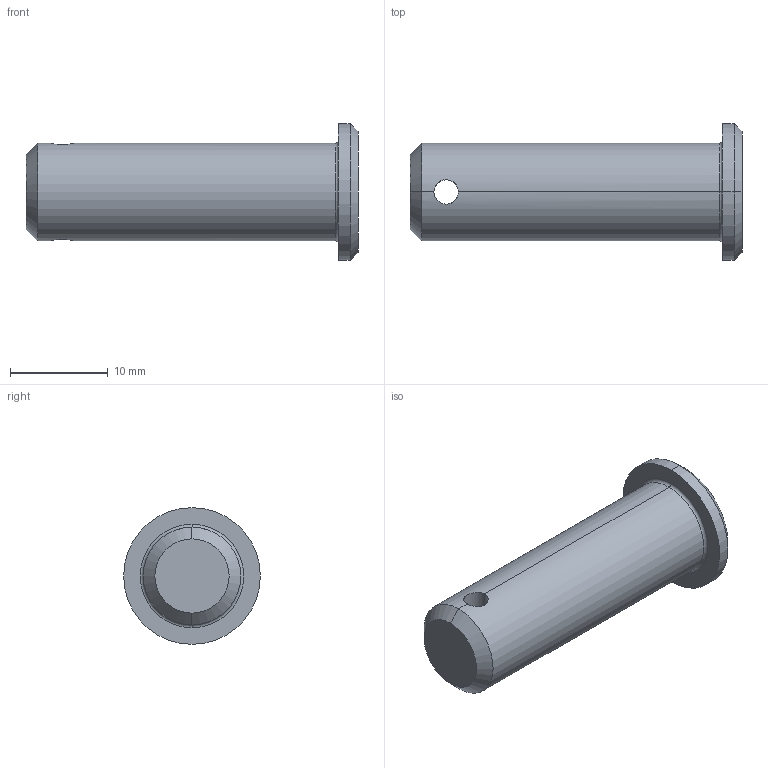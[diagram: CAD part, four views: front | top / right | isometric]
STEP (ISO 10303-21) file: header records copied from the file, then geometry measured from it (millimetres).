
FILE_DESCRIPTION (( 'STEP AP203' ), '1' );
FILE_NAME ('Wiberger-sms2360_10x32.step', '2012-10-09T08:56:56', ( 'Magnus' ), ( 'Wiberger' ), 'SwSTEP 2.0', 'SolidWorks 2011', '' );
FILE_SCHEMA (( 'CONFIG_CONTROL_DESIGN' ));
Length unit declared in the file: millimetre
Products named in the file (1): Wiberger-sms2360_10x32
Bounding box: 34 x 14 x 14 mm (x, y, z)
Volume: 2738.7 mm3; surface area: 1419.1 mm2
Topology: 1 solids, 1 shells, 15 faces, 32 edges, 18 vertices
Faces by surface type: cylinder 6, cone 4, plane 3, torus 2
Entity records: 555 total; most frequent: CARTESIAN_POINT 146, DIRECTION 76, ORIENTED_EDGE 64, EDGE_CURVE 32, AXIS2_PLACEMENT_3D 32, VERTEX_POINT 18, EDGE_LOOP 16, CIRCLE 16
